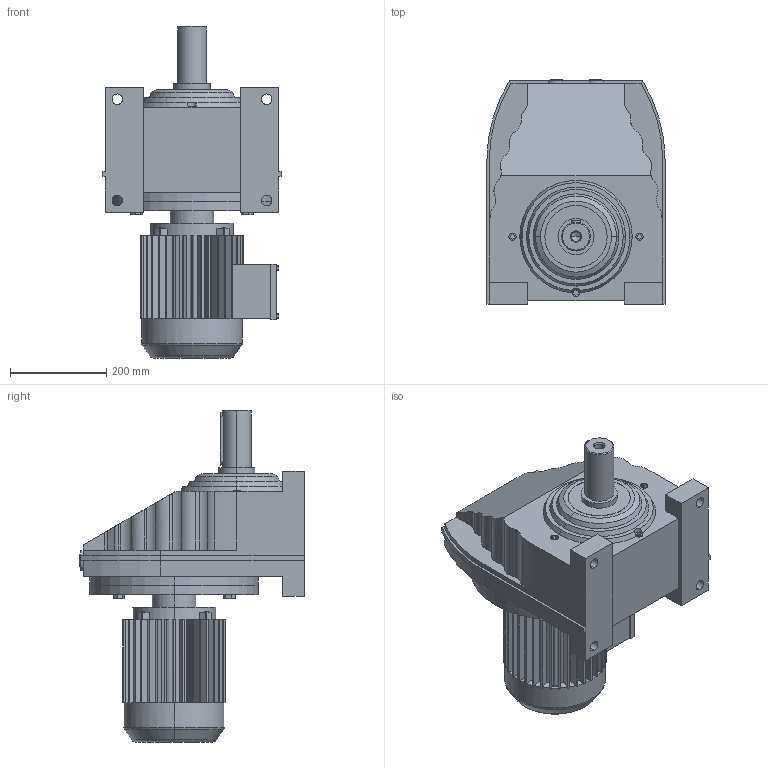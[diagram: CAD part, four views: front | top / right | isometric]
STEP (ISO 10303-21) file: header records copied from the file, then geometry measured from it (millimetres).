
FILE_DESCRIPTION(('Open CASCADE Model'),'2;1');
FILE_NAME('Open CASCADE Shape Model','2021-07-14T10:18:30',('Author'),( 'Open CASCADE'),'Open CASCADE STEP processor 6.3','Open CASCADE 6.3' ,'Unknown');
FILE_SCHEMA(('AUTOMOTIVE_DESIGN_CC2 { 1 2 10303 214 -1 1 5 4 }'));
Length unit declared in the file: millimetre
Products named in the file (3): 1_RX107-Y100M; RX57‵107_107.step; 萇儂_350_Y100M.step
Assembly tree (2 placements, depth 2):
  1_RX107-Y100M
    RX57‵107_107.step
    萇儂_350_Y100M.step
Bounding box: 370 x 466 x 689 mm (x, y, z)
Volume: 38501426.2 mm3; surface area: 1391851.1 mm2
Topology: 2 solids, 2 shells, 622 faces, 1640 edges, 1061 vertices
Faces by surface type: plane 417, cylinder 184, cone 17, torus 4
Entity records: 42313 total; most frequent: CARTESIAN_POINT 11413, DIRECTION 5316, ORIENTED_EDGE 3276, PCURVE 3276, DEFINITIONAL_REPRESENTATION 3276, LINE 2800, VECTOR 2800, EDGE_CURVE 1638
